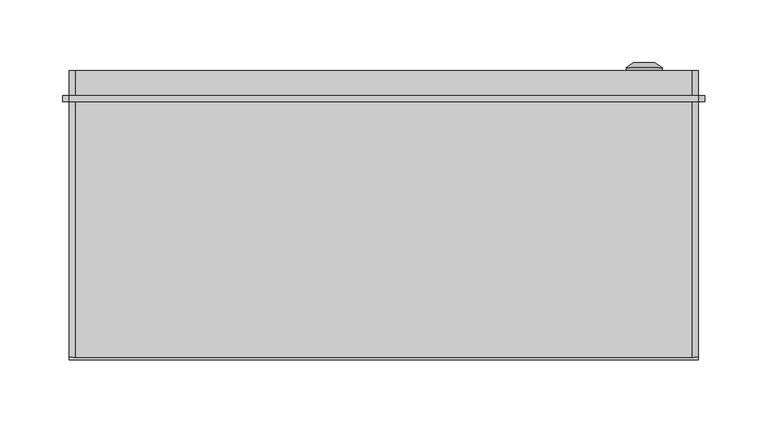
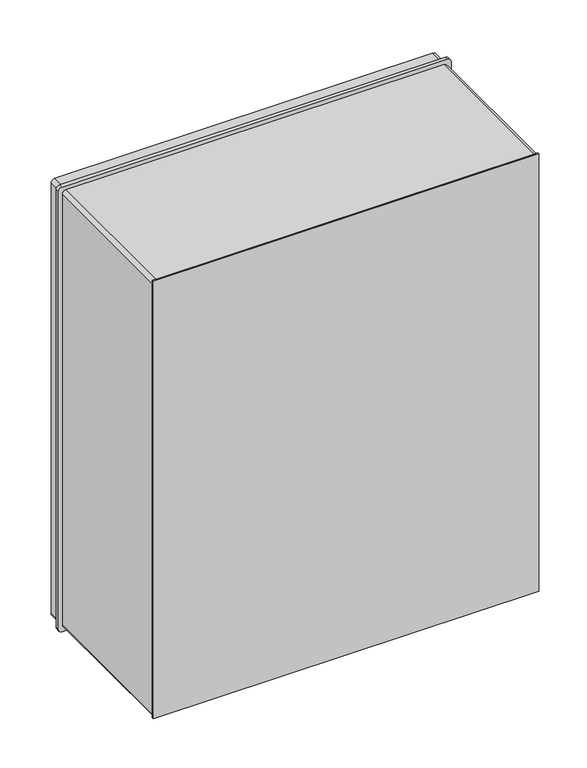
"""IFC4 building model written with IfcOpenShell, lengths in millimetres: proxy geometry, ЩПМП_IP55 : ЩПМП-3-0."""

from ifc_helpers import new_model, si_unit, point, frame, frame_2d, origin, origin_with_axes, place, context, project, spatial, polyline, circle_curve, trimmed, segment, composite_curve, outline, extrude, source, transform, mapped, element, save
from ifc_brep_helpers import plane_surface, cylinder_surface, revolved_surface, advanced_brep


def electrical_equipment_830343ff(model_context):
    return source(origin(), model_context, "Body", "SolidModel", [
        advanced_brep(
        [(192.669873, 230.0, 80.0), (221.330127, 230.0, 80.0), (207.0, 230.0, 80.0), (192.669873, 232.366592, 80.0), (221.330127, 232.366592, 80.0), (198.4845412, 236.0, 80.0), (215.5154588, 236.0, 80.0), (204.0610864, 236.0, 80.0), (209.9389136, 236.0, 80.0), (204.0610864, 234.9822294, 80.0), (209.9389136, 234.9822294, 80.0), (207.0, 234.9822294, 80.0)],
        [
            (0, 1, circle_curve(frame((207.0, 230.0, 80.0), z_axis=(0.0, -1.0, 0.0), x_axis=(1.0, 0.0, 0.0)), 14.330127)),
            (1, 2),
            (2, 0),
            (1, 0, circle_curve(frame((207.0, 230.0, 80.0), z_axis=(0.0, -1.0, 0.0), x_axis=(1.0, 0.0, 0.0)), 14.330127)),
            (3, 4, circle_curve(frame((207.0, 232.366592, 80.0), z_axis=(0.0, -1.0, 0.0), x_axis=(1.0, 0.0, 0.0)), 14.330127)),
            (4, 1),
            (0, 3),
            (4, 3, circle_curve(frame((207.0, 232.366592, 80.0), z_axis=(0.0, -1.0, 0.0), x_axis=(1.0, 0.0, 0.0)), 14.330127)),
            (5, 6, circle_curve(frame((207.0, 236.0, 80.0), z_axis=(0.0, -1.0, 0.0), x_axis=(1.0, 0.0, 0.0)), 8.5154588)),
            (6, 4),
            (3, 5),
            (6, 5, circle_curve(frame((207.0, 236.0, 80.0), z_axis=(0.0, -1.0, 0.0), x_axis=(1.0, 0.0, 0.0)), 8.5154588)),
            (7, 8, circle_curve(frame((207.0, 236.0, 80.0), z_axis=(0.0, -1.0, 0.0), x_axis=(1.0, 0.0, 0.0)), 2.9389136)),
            (8, 6),
            (5, 7),
            (8, 7, circle_curve(frame((207.0, 236.0, 80.0), z_axis=(0.0, -1.0, 0.0), x_axis=(1.0, 0.0, 0.0)), 2.9389136)),
            (9, 10, circle_curve(frame((207.0, 234.9822294, 80.0), z_axis=(0.0, -1.0, 0.0), x_axis=(1.0, 0.0, 0.0)), 2.9389136)),
            (10, 8),
            (7, 9),
            (10, 9, circle_curve(frame((207.0, 234.9822294, 80.0), z_axis=(0.0, -1.0, 0.0), x_axis=(1.0, 0.0, 0.0)), 2.9389136)),
            (11, 10),
            (9, 11),
        ],
        [
            plane_surface(frame((207.0, 230.0, 80.0), z_axis=(0.0, -1.0, 0.0), x_axis=(1.0, 0.0, 0.0))),
            cylinder_surface(frame((207.0, 243.1348851, 80.0), z_axis=(0.0, 1.0, 0.0), x_axis=(1.0, 0.0, 0.0)), 14.330127),
            revolved_surface(polyline([(221.330127, 232.366592, 80.0), (215.5154588, 236.0, 80.0)]), (207.0, 243.1348851, 80.0), (0.0, 1.0, 0.0)),
            plane_surface(frame((207.0, 236.0, 80.0), z_axis=(0.0, 1.0, 0.0), x_axis=(1.0, 0.0, 0.0))),
            revolved_surface(polyline([(209.9389136, 236.0, 80.0), (209.9389136, 234.9822294, 80.0)]), (207.0, 243.1348851, 80.0), (0.0, 1.0, 0.0)),
            plane_surface(frame((207.0, 234.9822294, 80.0), z_axis=(0.0, 1.0, 0.0), x_axis=(1.0, 0.0, 0.0))),
        ],
        [
            (0, [[1, 2, 3]]),
            (0, [[4, -3, -2]]),
            (1, [[5, 6, -1, 7]]),
            (1, [[8, -7, -4, -6]]),
            (2, [[9, 10, -5, 11]]),
            (2, [[12, -11, -8, -10]]),
            (3, [[13, 14, -9, 15]]),
            (3, [[16, -15, -12, -14]]),
            (4, [[17, 18, -13, 19]]),
            (4, [[20, -19, -16, -18]]),
            (5, [[21, -17, 22]]),
            (5, [[-22, -20, -21]]),
        ],
    ),
        advanced_brep(
        [(192.669873, 230.0, 525.0), (221.330127, 230.0, 525.0), (207.0, 230.0, 525.0), (192.669873, 232.366592, 525.0), (221.330127, 232.366592, 525.0), (198.4845412, 236.0, 525.0), (215.5154588, 236.0, 525.0), (204.0610864, 236.0, 525.0), (209.9389136, 236.0, 525.0), (204.0610864, 234.9822294, 525.0), (209.9389136, 234.9822294, 525.0), (207.0, 234.9822294, 525.0)],
        [
            (0, 1, circle_curve(frame((207.0, 230.0, 525.0), z_axis=(0.0, -1.0, 0.0), x_axis=(1.0, 0.0, 0.0)), 14.330127)),
            (1, 2),
            (2, 0),
            (1, 0, circle_curve(frame((207.0, 230.0, 525.0), z_axis=(0.0, -1.0, 0.0), x_axis=(1.0, 0.0, 0.0)), 14.330127)),
            (3, 4, circle_curve(frame((207.0, 232.366592, 525.0), z_axis=(0.0, -1.0, 0.0), x_axis=(1.0, 0.0, 0.0)), 14.330127)),
            (4, 1),
            (0, 3),
            (4, 3, circle_curve(frame((207.0, 232.366592, 525.0), z_axis=(0.0, -1.0, 0.0), x_axis=(1.0, 0.0, 0.0)), 14.330127)),
            (5, 6, circle_curve(frame((207.0, 236.0, 525.0), z_axis=(0.0, -1.0, 0.0), x_axis=(1.0, 0.0, 0.0)), 8.5154588)),
            (6, 4),
            (3, 5),
            (6, 5, circle_curve(frame((207.0, 236.0, 525.0), z_axis=(0.0, -1.0, 0.0), x_axis=(1.0, 0.0, 0.0)), 8.5154588)),
            (7, 8, circle_curve(frame((207.0, 236.0, 525.0), z_axis=(0.0, -1.0, 0.0), x_axis=(1.0, 0.0, 0.0)), 2.9389136)),
            (8, 6),
            (5, 7),
            (8, 7, circle_curve(frame((207.0, 236.0, 525.0), z_axis=(0.0, -1.0, 0.0), x_axis=(1.0, 0.0, 0.0)), 2.9389136)),
            (9, 10, circle_curve(frame((207.0, 234.9822294, 525.0), z_axis=(0.0, -1.0, 0.0), x_axis=(1.0, 0.0, 0.0)), 2.9389136)),
            (10, 8),
            (7, 9),
            (10, 9, circle_curve(frame((207.0, 234.9822294, 525.0), z_axis=(0.0, -1.0, 0.0), x_axis=(1.0, 0.0, 0.0)), 2.9389136)),
            (11, 10),
            (9, 11),
        ],
        [
            plane_surface(frame((207.0, 230.0, 525.0), z_axis=(0.0, -1.0, 0.0), x_axis=(1.0, 0.0, 0.0))),
            cylinder_surface(frame((207.0, 243.1348851, 525.0), z_axis=(0.0, 1.0, 0.0), x_axis=(1.0, 0.0, 0.0)), 14.330127),
            revolved_surface(polyline([(221.330127, 232.366592, 525.0), (215.5154588, 236.0, 525.0)]), (207.0, 243.1348851, 525.0), (0.0, 1.0, 0.0)),
            plane_surface(frame((207.0, 236.0, 525.0), z_axis=(0.0, 1.0, 0.0), x_axis=(1.0, 0.0, 0.0))),
            revolved_surface(polyline([(209.9389136, 236.0, 525.0), (209.9389136, 234.9822294, 525.0)]), (207.0, 243.1348851, 525.0), (0.0, 1.0, 0.0)),
            plane_surface(frame((207.0, 234.9822294, 525.0), z_axis=(0.0, 1.0, 0.0), x_axis=(1.0, 0.0, 0.0))),
        ],
        [
            (0, [[1, 2, 3]]),
            (0, [[4, -3, -2]]),
            (1, [[5, 6, -1, 7]]),
            (1, [[8, -7, -4, -6]]),
            (2, [[9, 10, -5, 11]]),
            (2, [[12, -11, -8, -10]]),
            (3, [[13, 14, -9, 15]]),
            (3, [[16, -15, -12, -14]]),
            (4, [[17, 18, -13, 19]]),
            (4, [[20, -19, -16, -18]]),
            (5, [[21, -17, 22]]),
            (5, [[-22, -20, -21]]),
        ],
    ),
        extrude(outline(composite_curve([segment(trimmed(circle_curve(frame_2d((600.0, -250.0)), 5.0), [point((605.0, -250.0))], [point((600.0, -255.0))], False, "CARTESIAN"), True, "CONTINUOUS"), segment(polyline([(600.0, -255.0), (0.0, -255.0)]), True, "CONTINUOUS"), segment(trimmed(circle_curve(frame_2d((0.0, -250.0)), 5.0), [point((0.0, -255.0))], [point((-5.0, -250.0))], False, "CARTESIAN"), True, "CONTINUOUS"), segment(polyline([(-5.0, -250.0), (-5.0, 250.0)]), True, "CONTINUOUS"), segment(trimmed(circle_curve(frame_2d((0.0, 250.0)), 5.0), [point((-5.0, 250.0))], [point((0.0, 255.0))], False, "CARTESIAN"), True, "CONTINUOUS"), segment(polyline([(0.0, 255.0), (600.0, 255.0)]), True, "CONTINUOUS"), segment(trimmed(circle_curve(frame_2d((600.0, 250.0)), 5.0), [point((600.0, 255.0))], [point((605.0, 250.0))], False, "CARTESIAN"), True, "CONTINUOUS"), segment(polyline([(605.0, 250.0), (605.0, -250.0)]), True, "CONTINUOUS")], self_intersect=False)), frame((0.0, 205.0, 0.0), z_axis=(0.0, 1.0, 0.0), x_axis=(0.0, 0.0, 1.0)), (0.0, 0.0, 1.0), 5.0),
        extrude(outline(composite_curve([segment(trimmed(circle_curve(frame_2d((595.0, -245.0)), 5.0), [point((600.0, -245.0))], [point((595.0, -250.0))], False, "CARTESIAN"), True, "CONTINUOUS"), segment(polyline([(595.0, -250.0), (5.0, -250.0)]), True, "CONTINUOUS"), segment(trimmed(circle_curve(frame_2d((5.0, -245.0)), 5.0), [point((5.0, -250.0))], [point((0.0, -245.0))], False, "CARTESIAN"), True, "CONTINUOUS"), segment(polyline([(0.0, -245.0), (0.0, 245.0)]), True, "CONTINUOUS"), segment(trimmed(circle_curve(frame_2d((5.0, 245.0)), 5.0), [point((0.0, 245.0))], [point((5.0, 250.0))], False, "CARTESIAN"), True, "CONTINUOUS"), segment(polyline([(5.0, 250.0), (595.0, 250.0)]), True, "CONTINUOUS"), segment(trimmed(circle_curve(frame_2d((595.0, 245.0)), 5.0), [point((595.0, 250.0))], [point((600.0, 245.0))], False, "CARTESIAN"), True, "CONTINUOUS"), segment(polyline([(600.0, 245.0), (600.0, -245.0)]), True, "CONTINUOUS")], self_intersect=False)), frame((0.0, 210.0, 0.0), z_axis=(0.0, 1.0, 0.0), x_axis=(0.0, 0.0, 1.0)), (0.0, 0.0, 1.0), 20.0),
        extrude(outline(composite_curve([segment(trimmed(circle_curve(frame_2d((595.0, -245.0033905)), 5.0), [point((600.0, -245.0033905))], [point((595.0, -250.0033905))], False, "CARTESIAN"), True, "CONTINUOUS"), segment(polyline([(595.0, -250.0033905), (5.0, -250.0033905)]), True, "CONTINUOUS"), segment(trimmed(circle_curve(frame_2d((5.0, -245.0033905)), 5.0), [point((5.0, -250.0033905))], [point((0.0, -245.0033905))], False, "CARTESIAN"), True, "CONTINUOUS"), segment(polyline([(0.0, -245.0033905), (0.0, 244.9966095)]), True, "CONTINUOUS"), segment(trimmed(circle_curve(frame_2d((5.0, 244.9966095)), 5.0), [point((0.0, 244.9966095))], [point((5.0, 249.9966095))], False, "CARTESIAN"), True, "CONTINUOUS"), segment(polyline([(5.0, 249.9966095), (595.0, 249.9966095)]), True, "CONTINUOUS"), segment(trimmed(circle_curve(frame_2d((595.0, 244.9966095)), 5.0), [point((595.0, 249.9966095))], [point((600.0, 244.9966095))], False, "CARTESIAN"), True, "CONTINUOUS"), segment(polyline([(600.0, 244.9966095), (600.0, -245.0033905)]), True, "CONTINUOUS")], self_intersect=False), holes=[polyline([(565.0, -217.0033905), (565.0, 216.9966095), (35.0, 216.9966095), (35.0, -217.0033905), (565.0, -217.0033905)])]), frame((0.0, 2.0, 0.0), z_axis=(0.0, 1.0, 0.0), x_axis=(0.0, 0.0, 1.0)), (0.0, 0.0, 1.0), 203.0),
        extrude(outline(polyline([(250.0, 0.0), (-250.0, 0.0), (-250.0, 2.0), (250.0, 2.0), (250.0, 0.0)])), origin_with_axes(), (0.0, 0.0, 1.0), 600.0),
    ])


if __name__ == "__main__":
    model = new_model("IFC4")
    model_context = context("Model", 3, world=origin())
    ifc_project = project(units=[si_unit("LENGTHUNIT", "METRE", prefix="MILLI")], contexts=[model_context])
    site = spatial("IfcSite", under=ifc_project)
    building = spatial("IfcBuilding", under=site)
    placement = place(None, origin())
    electrical_equipment_shape = electrical_equipment_830343ff(model_context)
    element("IfcBuildingElementProxy", 1, Name="ЩПМП_IP55 : ЩПМП-3-0", ObjectType="ЩПМП_IP55 : ЩПМП-3-0", at=placement, inside=building, context=model_context, shape_type="MappedRepresentation", body=[
        mapped(electrical_equipment_shape, transform((0.0, 0.0, 0.0), x_axis=(1.0, 0.0, 0.0), y_axis=(0.0, 1.0, 0.0), z_axis=(0.0, 0.0, 1.0))),
    ])
    save(model, "model.ifc")
